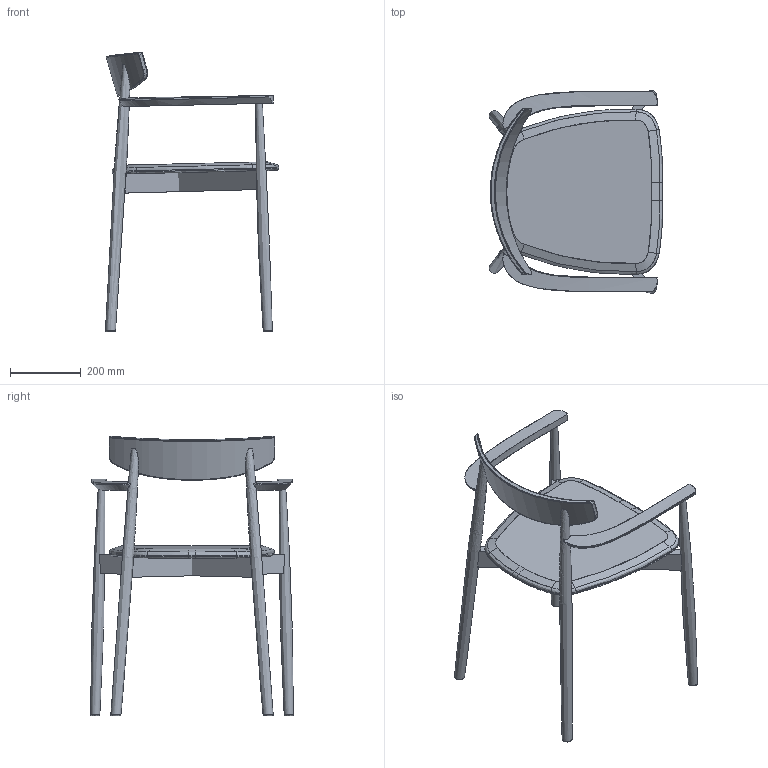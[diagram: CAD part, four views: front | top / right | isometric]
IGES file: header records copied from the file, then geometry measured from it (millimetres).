
Global section: file name: C:\Users\roby\Desktop\nuovi\SEDIE\claretta braccioli\claretta braccioli.igs; native system: Rhinoceros ( Aug 10 2015 ); preprocessor: Trout Lake IGES 012 Aug 10 2015; date: 161220.073032; units: centimetre
Bounding box: 490.53 x 574.1 x 792.42 mm (x, y, z)
Surface area: 1096432.3 mm2 (no closed solid volume)
Topology: 0 solids, 0 shells, 126 faces, 1488 edges, 1572 vertices
Faces by surface type: bspline 126
